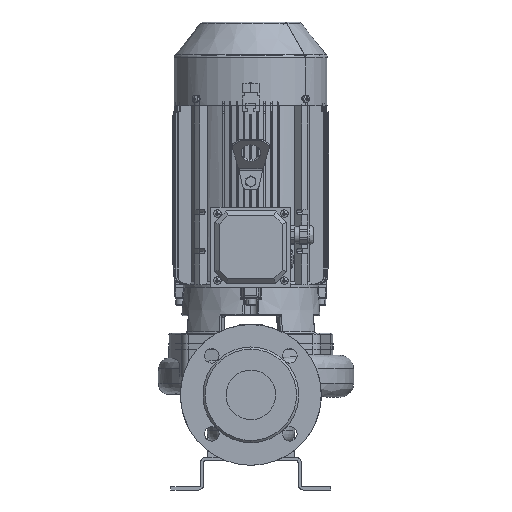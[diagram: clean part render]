
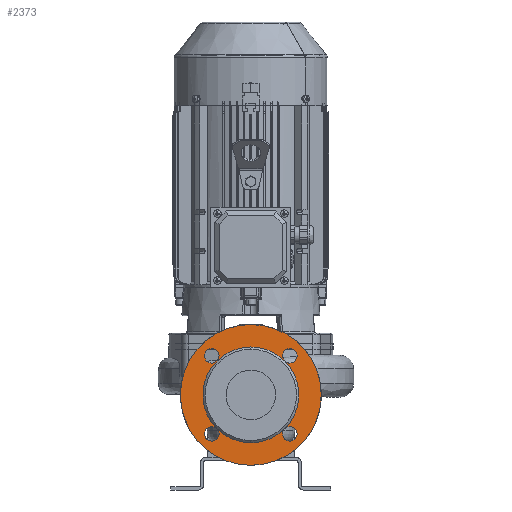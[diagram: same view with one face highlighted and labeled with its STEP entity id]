
A CAD part, front view. The second image highlights one B-rep face of the part: STEP entity #2373.
In plain terms, the highlighted planar face has unit normal (0, -1, 0) as drawn and (0, 1, 0) by its records, which use the part's own axes.
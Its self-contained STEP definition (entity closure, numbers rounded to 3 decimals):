
#2373=ADVANCED_FACE('',(#4231,#4232),#4233,.T.);
#2401=EDGE_CURVE('',#4276,#4277,#4278,.T.);
#2403=EDGE_CURVE('',#4280,#4276,#4281,.T.);
#2405=EDGE_CURVE('',#4283,#4280,#4284,.T.);
#2409=EDGE_CURVE('',#4290,#4291,#4292,.T.);
#2413=EDGE_CURVE('',#4298,#4299,#4300,.T.);
#2417=EDGE_CURVE('',#4306,#4307,#4308,.T.);
#2421=EDGE_CURVE('',#4314,#4315,#4316,.T.);
#2423=EDGE_CURVE('',#4318,#4319,#4320,.T.);
#2615=EDGE_CURVE('',#4319,#4318,#4615,.T.);
#2625=EDGE_CURVE('',#4280,#4314,#4625,.T.);
#2627=EDGE_CURVE('',#4315,#4280,#4627,.T.);
#2629=EDGE_CURVE('',#4276,#4306,#4629,.T.);
#2631=EDGE_CURVE('',#4307,#4276,#4631,.T.);
#2633=EDGE_CURVE('',#4633,#4298,#4634,.T.);
#2635=EDGE_CURVE('',#4299,#4633,#4636,.T.);
#2637=EDGE_CURVE('',#4638,#4290,#4639,.T.);
#2639=EDGE_CURVE('',#4291,#4638,#4641,.T.);
#2641=EDGE_CURVE('',#4277,#4633,#4643,.T.);
#2643=EDGE_CURVE('',#4633,#4638,#4645,.T.);
#2645=EDGE_CURVE('',#4638,#4283,#4647,.T.);
#4231=FACE_OUTER_BOUND('',#10272,.T.);
#4232=FACE_BOUND('',#10273,.T.);
#4233=PLANE('',#10274);
#4276=VERTEX_POINT('',#11211);
#4277=VERTEX_POINT('',#11212);
#4278=CIRCLE('',#11213,63.0);
#4280=VERTEX_POINT('',#11216);
#4281=CIRCLE('',#11217,63.0);
#4283=VERTEX_POINT('',#11220);
#4284=CIRCLE('',#11221,63.0);
#4290=VERTEX_POINT('',#11229);
#4291=VERTEX_POINT('',#11230);
#4292=CIRCLE('',#11231,9.5);
#4298=VERTEX_POINT('',#11239);
#4299=VERTEX_POINT('',#11240);
#4300=CIRCLE('',#11241,9.5);
#4306=VERTEX_POINT('',#11249);
#4307=VERTEX_POINT('',#11250);
#4308=CIRCLE('',#11251,9.5);
#4314=VERTEX_POINT('',#11259);
#4315=VERTEX_POINT('',#11260);
#4316=CIRCLE('',#11261,9.5);
#4318=VERTEX_POINT('',#11264);
#4319=VERTEX_POINT('',#11265);
#4320=CIRCLE('',#11266,92.5);
#4615=CIRCLE('',#11733,92.5);
#4625=CIRCLE('',#11748,9.5);
#4627=CIRCLE('',#11751,9.5);
#4629=CIRCLE('',#11754,9.5);
#4631=CIRCLE('',#11757,9.5);
#4633=VERTEX_POINT('',#11760);
#4634=CIRCLE('',#11761,9.5);
#4636=CIRCLE('',#11764,9.5);
#4638=VERTEX_POINT('',#11767);
#4639=CIRCLE('',#11768,9.5);
#4641=CIRCLE('',#11771,9.5);
#4643=CIRCLE('',#11774,63.0);
#4645=CIRCLE('',#11777,63.0);
#4647=CIRCLE('',#11780,63.0);
#10272=EDGE_LOOP('',(#19408,#19409));
#10273=EDGE_LOOP('',(#19410,#19411,#19412,#19413,#19414,#19415,#19416,#19417,#19418,#19419,#19420,#19421,#19422,#19423,#19424,#19425,#19426,#19427));
#10274=AXIS2_PLACEMENT_3D('',#19428,#19429,#19430);
#11211=CARTESIAN_POINT('',(44.548,175.,20.048));
#11212=CARTESIAN_POINT('',(0.,175.0,38.5));
#11213=AXIS2_PLACEMENT_3D('',#19528,#19529,#19530);
#11216=CARTESIAN_POINT('',(44.548,175.0,-69.048));
#11217=AXIS2_PLACEMENT_3D('',#19531,#19532,#19533);
#11220=CARTESIAN_POINT('',(0.,175.0,-87.5));
#11221=AXIS2_PLACEMENT_3D('',#19534,#19535,#19536);
#11229=CARTESIAN_POINT('',(-56.624,175.0,-67.921));
#11230=CARTESIAN_POINT('',(-45.906,175.0,-83.609));
#11231=AXIS2_PLACEMENT_3D('',#19540,#19541,#19542);
#11239=CARTESIAN_POINT('',(-43.421,175.,32.124));
#11240=CARTESIAN_POINT('',(-59.109,175.,21.406));
#11241=AXIS2_PLACEMENT_3D('',#19546,#19547,#19548);
#11249=CARTESIAN_POINT('',(56.624,175.,18.921));
#11250=CARTESIAN_POINT('',(45.906,175.,34.609));
#11251=AXIS2_PLACEMENT_3D('',#19552,#19553,#19554);
#11259=CARTESIAN_POINT('',(43.421,175.,-81.124));
#11260=CARTESIAN_POINT('',(59.109,175.,-70.406));
#11261=AXIS2_PLACEMENT_3D('',#19558,#19559,#19560);
#11264=CARTESIAN_POINT('',(0.,175.0,-117.0));
#11265=CARTESIAN_POINT('',(0.,175.0,68.0));
#11266=AXIS2_PLACEMENT_3D('',#19561,#19562,#19563);
#11733=AXIS2_PLACEMENT_3D('',#19809,#19810,#19811);
#11748=AXIS2_PLACEMENT_3D('',#19824,#19825,#19826);
#11751=AXIS2_PLACEMENT_3D('',#19827,#19828,#19829);
#11754=AXIS2_PLACEMENT_3D('',#19830,#19831,#19832);
#11757=AXIS2_PLACEMENT_3D('',#19833,#19834,#19835);
#11760=CARTESIAN_POINT('',(-44.548,175.,20.048));
#11761=AXIS2_PLACEMENT_3D('',#19836,#19837,#19838);
#11764=AXIS2_PLACEMENT_3D('',#19839,#19840,#19841);
#11767=CARTESIAN_POINT('',(-44.548,175.0,-69.048));
#11768=AXIS2_PLACEMENT_3D('',#19842,#19843,#19844);
#11771=AXIS2_PLACEMENT_3D('',#19845,#19846,#19847);
#11774=AXIS2_PLACEMENT_3D('',#19848,#19849,#19850);
#11777=AXIS2_PLACEMENT_3D('',#19851,#19852,#19853);
#11780=AXIS2_PLACEMENT_3D('',#19854,#19855,#19856);
#19408=ORIENTED_EDGE('',*,*,#2615,.F.);
#19409=ORIENTED_EDGE('',*,*,#2423,.F.);
#19410=ORIENTED_EDGE('',*,*,#2401,.T.);
#19411=ORIENTED_EDGE('',*,*,#2641,.T.);
#19412=ORIENTED_EDGE('',*,*,#2633,.T.);
#19413=ORIENTED_EDGE('',*,*,#2413,.T.);
#19414=ORIENTED_EDGE('',*,*,#2635,.T.);
#19415=ORIENTED_EDGE('',*,*,#2643,.T.);
#19416=ORIENTED_EDGE('',*,*,#2637,.T.);
#19417=ORIENTED_EDGE('',*,*,#2409,.T.);
#19418=ORIENTED_EDGE('',*,*,#2639,.T.);
#19419=ORIENTED_EDGE('',*,*,#2645,.T.);
#19420=ORIENTED_EDGE('',*,*,#2405,.T.);
#19421=ORIENTED_EDGE('',*,*,#2625,.T.);
#19422=ORIENTED_EDGE('',*,*,#2421,.T.);
#19423=ORIENTED_EDGE('',*,*,#2627,.T.);
#19424=ORIENTED_EDGE('',*,*,#2403,.T.);
#19425=ORIENTED_EDGE('',*,*,#2629,.T.);
#19426=ORIENTED_EDGE('',*,*,#2417,.T.);
#19427=ORIENTED_EDGE('',*,*,#2631,.T.);
#19428=CARTESIAN_POINT('',(0.,175.0,-102.25));
#19429=DIRECTION('',(0.0,1.0,0.0));
#19430=DIRECTION('',(0.0,0.0,1.0));
#19528=CARTESIAN_POINT('',(0.,175.0,-24.5));
#19529=DIRECTION('',(0.0,-1.0,0.0));
#19530=DIRECTION('',(0.,0.0,-1.0));
#19531=CARTESIAN_POINT('',(0.,175.0,-24.5));
#19532=DIRECTION('',(0.0,-1.0,0.0));
#19533=DIRECTION('',(0.,0.0,-1.0));
#19534=CARTESIAN_POINT('',(0.,175.0,-24.5));
#19535=DIRECTION('',(0.0,-1.0,0.0));
#19536=DIRECTION('',(0.,0.0,-1.0));
#19540=CARTESIAN_POINT('',(-51.265,175.0,-75.765));
#19541=DIRECTION('',(0.0,-1.0,0.0));
#19542=DIRECTION('',(-0.564,0.0,0.826));
#19546=CARTESIAN_POINT('',(-51.265,175.,26.765));
#19547=DIRECTION('',(0.0,-1.0,0.0));
#19548=DIRECTION('',(0.826,0.0,0.564));
#19552=CARTESIAN_POINT('',(51.265,175.,26.765));
#19553=DIRECTION('',(0.0,-1.0,0.0));
#19554=DIRECTION('',(0.564,0.0,-0.826));
#19558=CARTESIAN_POINT('',(51.265,175.,-75.765));
#19559=DIRECTION('',(0.0,-1.0,-0.0));
#19560=DIRECTION('',(-0.826,0.0,-0.564));
#19561=CARTESIAN_POINT('',(0.,175.0,-24.5));
#19562=DIRECTION('',(0.0,-1.0,0.0));
#19563=DIRECTION('',(0.,0.0,-1.0));
#19809=CARTESIAN_POINT('',(0.,175.0,-24.5));
#19810=DIRECTION('',(0.0,-1.0,0.0));
#19811=DIRECTION('',(0.,0.0,-1.0));
#19824=CARTESIAN_POINT('',(51.265,175.,-75.765));
#19825=DIRECTION('',(0.0,-1.0,-0.0));
#19826=DIRECTION('',(-0.826,0.0,-0.564));
#19827=CARTESIAN_POINT('',(51.265,175.,-75.765));
#19828=DIRECTION('',(0.0,-1.0,-0.0));
#19829=DIRECTION('',(-0.826,0.0,-0.564));
#19830=CARTESIAN_POINT('',(51.265,175.,26.765));
#19831=DIRECTION('',(0.0,-1.0,0.0));
#19832=DIRECTION('',(0.564,0.0,-0.826));
#19833=CARTESIAN_POINT('',(51.265,175.,26.765));
#19834=DIRECTION('',(0.0,-1.0,0.0));
#19835=DIRECTION('',(0.564,0.0,-0.826));
#19836=CARTESIAN_POINT('',(-51.265,175.,26.765));
#19837=DIRECTION('',(0.0,-1.0,0.0));
#19838=DIRECTION('',(0.826,0.0,0.564));
#19839=CARTESIAN_POINT('',(-51.265,175.,26.765));
#19840=DIRECTION('',(0.0,-1.0,0.0));
#19841=DIRECTION('',(0.826,0.0,0.564));
#19842=CARTESIAN_POINT('',(-51.265,175.0,-75.765));
#19843=DIRECTION('',(0.0,-1.0,0.0));
#19844=DIRECTION('',(-0.564,0.0,0.826));
#19845=CARTESIAN_POINT('',(-51.265,175.0,-75.765));
#19846=DIRECTION('',(0.0,-1.0,0.0));
#19847=DIRECTION('',(-0.564,0.0,0.826));
#19848=CARTESIAN_POINT('',(0.,175.0,-24.5));
#19849=DIRECTION('',(0.0,-1.0,0.0));
#19850=DIRECTION('',(0.,0.0,-1.0));
#19851=CARTESIAN_POINT('',(0.,175.0,-24.5));
#19852=DIRECTION('',(0.0,-1.0,0.0));
#19853=DIRECTION('',(0.,0.0,-1.0));
#19854=CARTESIAN_POINT('',(0.,175.0,-24.5));
#19855=DIRECTION('',(0.0,-1.0,0.0));
#19856=DIRECTION('',(0.,0.0,-1.0));
